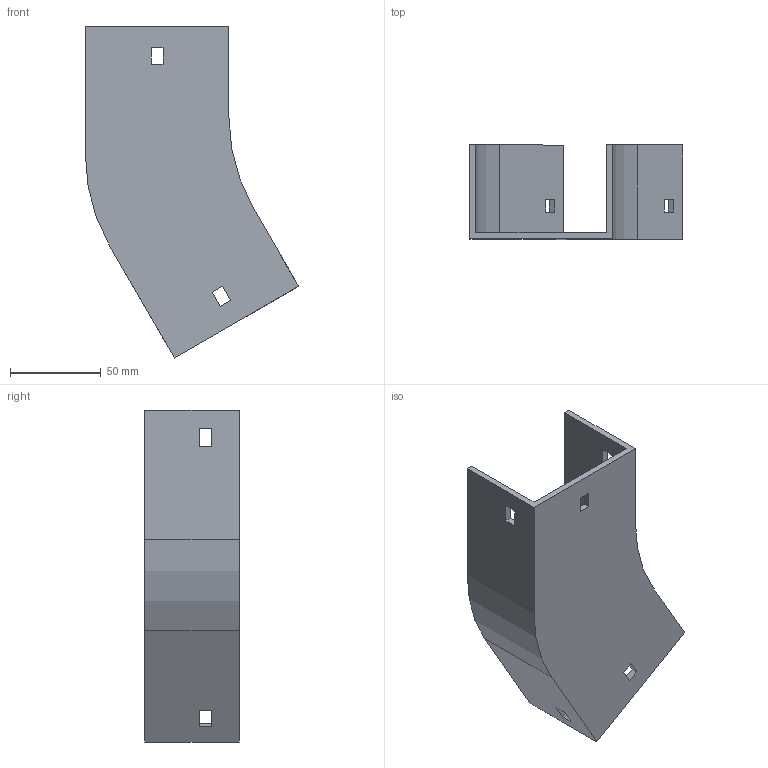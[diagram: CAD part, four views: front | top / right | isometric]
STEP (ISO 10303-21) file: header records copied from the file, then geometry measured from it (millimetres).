
FILE_DESCRIPTION (( 'STEP AP214' ), '1' );
FILE_NAME ('12B1B075.step', '2025-02-21T09:34:18', ( '' ), ( '' ), 'SwSTEP 2.0', 'SolidWorks 2023', '' );
FILE_SCHEMA (( 'AUTOMOTIVE_DESIGN' ));
Length unit declared in the file: millimetre
Products named in the file (1): 12B1B075
Bounding box: 117.4 x 52 x 182.8 mm (x, y, z)
Volume: 105843.7 mm3; surface area: 63621.8 mm2
Topology: 1 solids, 1 shells, 42 faces, 120 edges, 80 vertices
Faces by surface type: plane 38, cylinder 4
Entity records: 1399 total; most frequent: CARTESIAN_POINT 243, ORIENTED_EDGE 240, DIRECTION 214, EDGE_CURVE 120, LINE 112, VECTOR 112, VERTEX_POINT 80, EDGE_LOOP 54
